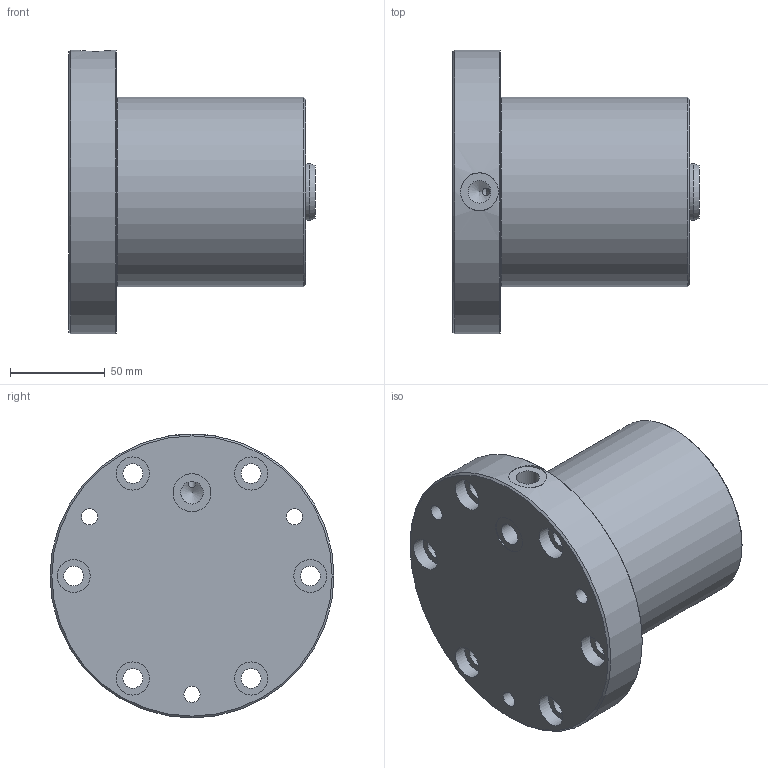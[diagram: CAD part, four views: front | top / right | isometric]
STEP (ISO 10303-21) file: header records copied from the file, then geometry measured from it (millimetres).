
FILE_DESCRIPTION( ( 'Unknown' ), '1' );
FILE_NAME( 'F:/JAKOB-STEP+IGES-Dateien/STEP-Dateien/ZDF/ZDFu 6300.stp', 'Unknown', ( 'Unknown' ), ( 'Unknown' ), 'XStep 1.0', 'Unknown', ' ' );
FILE_SCHEMA( ( 'CONFIG_CONTROL_DESIGN' ) );
Length unit declared in the file: millimetre
Products named in the file (1): 1
Bounding box: 130 x 150 x 150 mm (x, y, z)
Volume: 1201895.8 mm3; surface area: 86303.4 mm2
Topology: 1 solids, 1 shells, 43 faces, 95 edges, 62 vertices
Faces by surface type: cylinder 23, plane 12, cone 7, torus 1
Full cylindrical faces by diameter (mm): 4 x1, 8.5 x3, 10.4 x6, 12 x2, 17.5 x6, 20 x2, 30 x1, 100 x1, 150 x1
Entity records: 1253 total; most frequent: CARTESIAN_POINT 364, DIRECTION 186, ORIENTED_EDGE 106, EDGE_LOOP 103, AXIS2_PLACEMENT_3D 93, FACE_OUTER_BOUND 67, VERTEX_POINT 54, EDGE_CURVE 53
